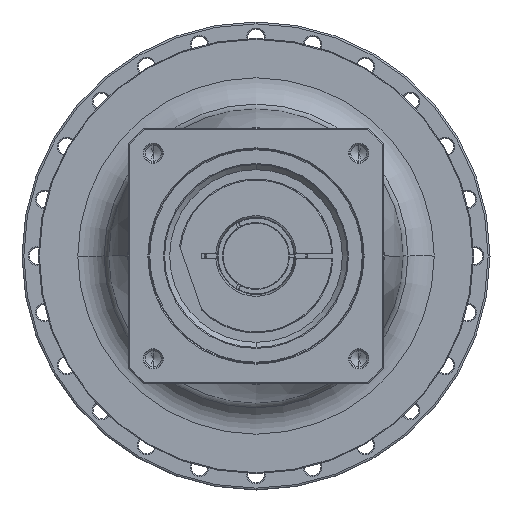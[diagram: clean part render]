
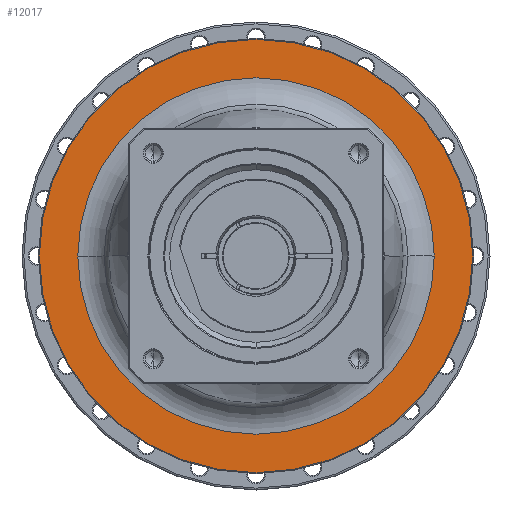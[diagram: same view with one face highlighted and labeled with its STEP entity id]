
A CAD part, left-side view. The second image highlights one B-rep face of the part: STEP entity #12017.
In plain terms, the highlighted planar face has unit normal (-1, 0, 0) as drawn and (1, 0, 0) by its records, which use the part's own axes.
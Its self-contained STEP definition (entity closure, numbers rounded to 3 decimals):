
#11520=CARTESIAN_POINT('',(-71.,0.,0.));
#11521=DIRECTION('',(-1.,0.,0.));
#11522=DIRECTION('',(0.,1.,0.));
#11523=AXIS2_PLACEMENT_3D('',#11520,#11521,#11522);
#11535=CARTESIAN_POINT('',(-71.,0.,0.));
#11536=DIRECTION('',(1.,0.,0.));
#11537=DIRECTION('',(0.,1.,0.));
#11538=AXIS2_PLACEMENT_3D('',#11535,#11536,#11537);
#11540=CARTESIAN_POINT('',(-71.,0.,0.));
#11541=DIRECTION('',(-1.,0.,0.));
#11542=DIRECTION('',(0.,-1.,0.));
#11543=AXIS2_PLACEMENT_3D('',#11540,#11541,#11542);
#11545=CARTESIAN_POINT('',(-71.,0.,0.));
#11546=DIRECTION('',(-1.,0.,0.));
#11547=DIRECTION('',(0.,1.,0.));
#11548=AXIS2_PLACEMENT_3D('',#11545,#11546,#11547);
#11670=CARTESIAN_POINT('',(-71.,-115.5,0.));
#11671=CARTESIAN_POINT('',(-71.,115.5,0.));
#11672=VERTEX_POINT('',#11670);
#11673=VERTEX_POINT('',#11671);
#11694=CARTESIAN_POINT('',(-71.,95.,0.));
#11695=CARTESIAN_POINT('',(-71.,-95.,0.));
#11696=VERTEX_POINT('',#11694);
#11697=VERTEX_POINT('',#11695);
#12002=CARTESIAN_POINT('',(-71.,0.,0.));
#12003=DIRECTION('',(1.,0.,0.));
#12004=DIRECTION('',(0.,-1.,0.));
#12005=AXIS2_PLACEMENT_3D('',#12002,#12003,#12004);
#12006=PLANE('',#12005);
#12008=ORIENTED_EDGE('',*,*,#12007,.T.);
#12010=ORIENTED_EDGE('',*,*,#12009,.T.);
#12011=EDGE_LOOP('',(#12008,#12010));
#12012=FACE_OUTER_BOUND('',#12011,.F.);
#12013=ORIENTED_EDGE('',*,*,#11996,.T.);
#12014=ORIENTED_EDGE('',*,*,#11982,.F.);
#12015=EDGE_LOOP('',(#12013,#12014));
#12016=FACE_BOUND('',#12015,.F.);
#12017=ADVANCED_FACE('',(#12012,#12016),#12006,.T.);
#11524=CIRCLE('',#11523,95.);
#11539=CIRCLE('',#11538,95.);
#11544=CIRCLE('',#11543,115.5);
#11549=CIRCLE('',#11548,115.5);
#11982=EDGE_CURVE('',#11696,#11697,#11524,.T.);
#11996=EDGE_CURVE('',#11696,#11697,#11539,.T.);
#12007=EDGE_CURVE('',#11672,#11673,#11544,.T.);
#12009=EDGE_CURVE('',#11673,#11672,#11549,.T.);
